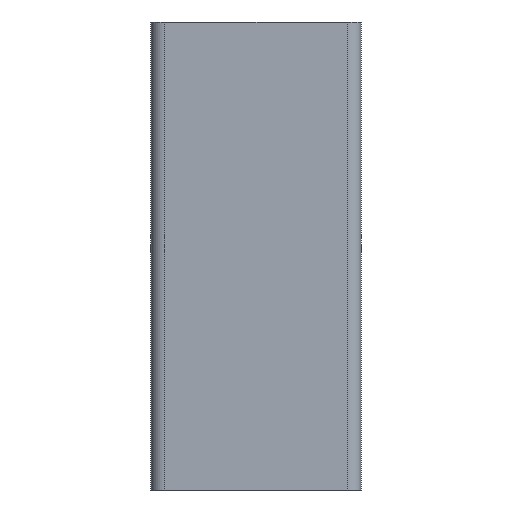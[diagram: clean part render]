
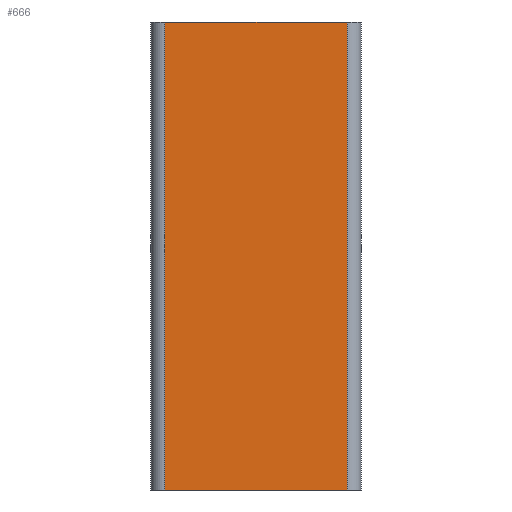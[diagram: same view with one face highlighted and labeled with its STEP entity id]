
A CAD part, left-side view. The second image highlights one B-rep face of the part: STEP entity #666.
In plain terms, the highlighted planar face has unit normal (-1, 0, 0).
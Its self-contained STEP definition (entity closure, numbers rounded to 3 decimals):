
#90 = ORIENTED_EDGE ( 'NONE', *, *, #3966, .F. ) ;
#154 = CARTESIAN_POINT ( 'NONE',  ( -22.5, -19.5, 50. ) ) ;
#172 = VECTOR ( 'NONE', #748, 1000. ) ;
#386 = EDGE_CURVE ( 'NONE', #1912, #1549, #3410, .T. ) ;
#630 = AXIS2_PLACEMENT_3D ( 'NONE', #1373, #932, #5022 ) ;
#649 = CARTESIAN_POINT ( 'NONE',  ( -22.5, 22.5, 50. ) ) ;
#660 = VECTOR ( 'NONE', #3831, 1000. ) ;
#666 = ADVANCED_FACE ( 'NONE', ( #2298 ), #4936, .F. ) ;
#699 = CARTESIAN_POINT ( 'NONE',  ( -22.5, 19.5, 50. ) ) ;
#748 = DIRECTION ( 'NONE',  ( 0., 0., -1. ) ) ;
#932 = DIRECTION ( 'NONE',  ( 1., 0., 0. ) ) ;
#1244 = EDGE_CURVE ( 'NONE', #4173, #1912, #5334, .T. ) ;
#1373 = CARTESIAN_POINT ( 'NONE',  ( -22.5, 22.5, 50. ) ) ;
#1374 = VECTOR ( 'NONE', #3879, 1000. ) ;
#1549 = VERTEX_POINT ( 'NONE', #5151 ) ;
#1577 = ORIENTED_EDGE ( 'NONE', *, *, #3041, .T. ) ;
#1912 = VERTEX_POINT ( 'NONE', #3361 ) ;
#2135 = CARTESIAN_POINT ( 'NONE',  ( -22.5, 22.5, -50. ) ) ;
#2298 = FACE_OUTER_BOUND ( 'NONE', #5072, .T. ) ;
#2910 = LINE ( 'NONE', #649, #660 ) ;
#3041 = EDGE_CURVE ( 'NONE', #4816, #4173, #3514, .T. ) ;
#3361 = CARTESIAN_POINT ( 'NONE',  ( -22.5, -19.5, -50. ) ) ;
#3410 = LINE ( 'NONE', #154, #1374 ) ;
#3514 = LINE ( 'NONE', #5257, #172 ) ;
#3831 = DIRECTION ( 'NONE',  ( 0., -1., 0. ) ) ;
#3879 = DIRECTION ( 'NONE',  ( 0., 0., 1. ) ) ;
#3966 = EDGE_CURVE ( 'NONE', #4816, #1549, #2910, .T. ) ;
#4033 = CARTESIAN_POINT ( 'NONE',  ( -22.5, 19.5, -50. ) ) ;
#4039 = ORIENTED_EDGE ( 'NONE', *, *, #1244, .T. ) ;
#4173 = VERTEX_POINT ( 'NONE', #4033 ) ;
#4319 = ORIENTED_EDGE ( 'NONE', *, *, #386, .T. ) ;
#4756 = VECTOR ( 'NONE', #5755, 1000. ) ;
#4816 = VERTEX_POINT ( 'NONE', #699 ) ;
#4936 = PLANE ( 'NONE',  #630 ) ;
#5022 = DIRECTION ( 'NONE',  ( 0., 1., 0. ) ) ;
#5072 = EDGE_LOOP ( 'NONE', ( #90, #1577, #4039, #4319 ) ) ;
#5151 = CARTESIAN_POINT ( 'NONE',  ( -22.5, -19.5, 50. ) ) ;
#5257 = CARTESIAN_POINT ( 'NONE',  ( -22.5, 19.5, 50. ) ) ;
#5334 = LINE ( 'NONE', #2135, #4756 ) ;
#5755 = DIRECTION ( 'NONE',  ( 0., -1., 0. ) ) ;
